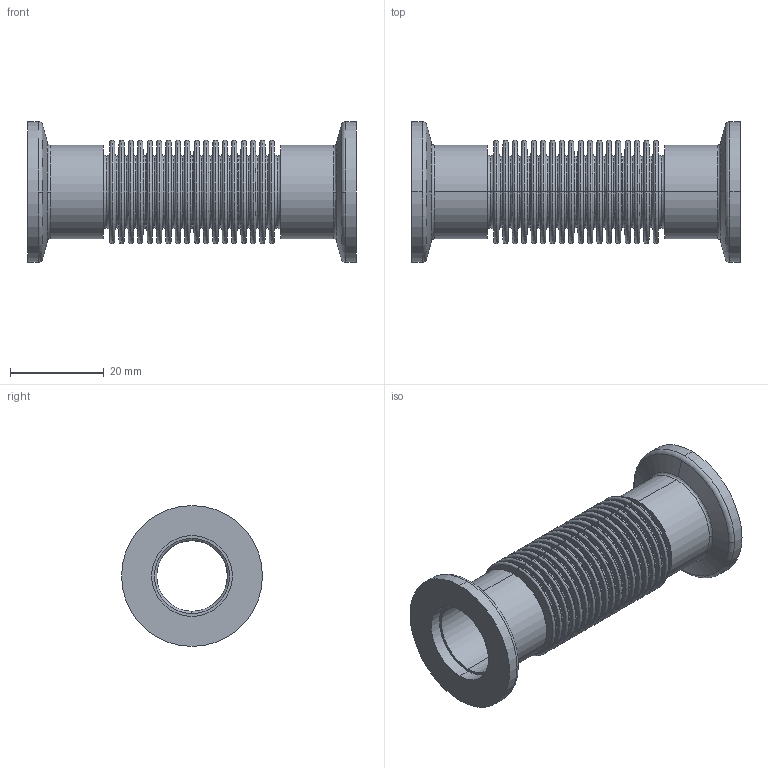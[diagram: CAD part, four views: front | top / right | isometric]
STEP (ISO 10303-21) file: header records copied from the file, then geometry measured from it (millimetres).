
FILE_DESCRIPTION((''),'2;1');
FILE_NAME('N:\Transfer\Berger Martin\Leybold\C13\87241.stp','2005-02-08T16:10:42',('BEM'),(''),'Autodesk Inventor 9','Autodesk Inventor 9','');
FILE_SCHEMA(('AUTOMOTIVE_DESIGN { 1 0 10303 214 1 1 1 1 }'));
Length unit declared in the file: millimetre
Products named in the file (1): 87241
Bounding box: 70 x 30 x 30 mm (x, y, z)
Volume: 7400.6 mm3; surface area: 22291.4 mm2
Topology: 1 solids, 1 shells, 480 faces, 1248 edges, 780 vertices
Faces by surface type: torus 152, bspline 152, cone 140, cylinder 24, plane 12
Entity records: 21355 total; most frequent: CARTESIAN_POINT 9197, DIRECTION 2990, ORIENTED_EDGE 2496, AXIS2_PLACEMENT_3D 1413, EDGE_CURVE 1248, CIRCLE 1084, VERTEX_POINT 780, EDGE_LOOP 492
